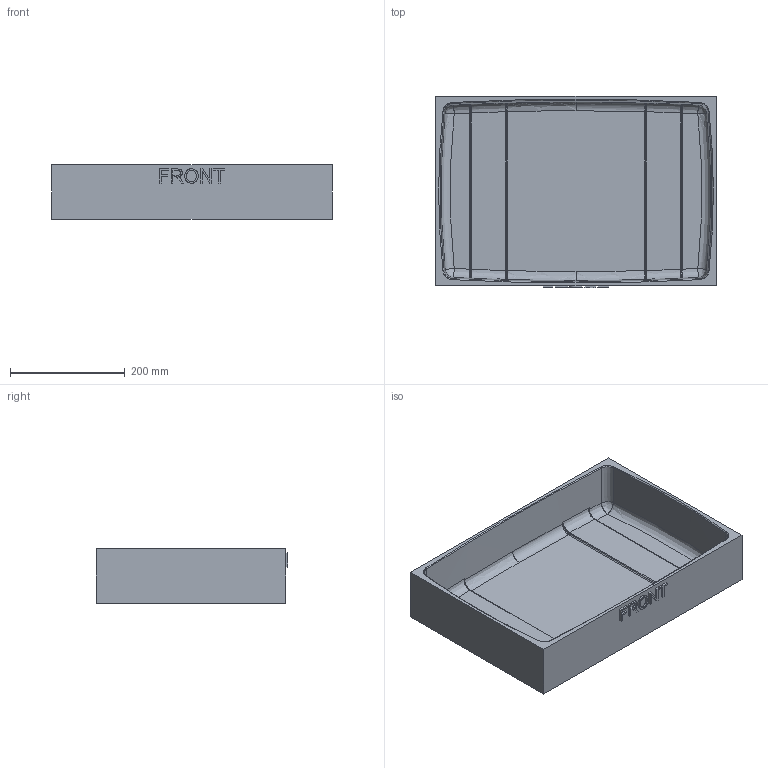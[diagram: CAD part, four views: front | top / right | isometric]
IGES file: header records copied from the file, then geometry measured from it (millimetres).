
Start section: Comment
Global section: file name: 2370-base_internal_tub.igs; native system:  By UGS Corp.; preprocessor: XPlus GENERIC/IGES 3.0; author: Author; organization: Title; date: 20100513.081300; units: millimetre
Bounding box: 488.95 x 333.38 x 95.25 mm (x, y, z)
Surface area: 600532.8 mm2 (no closed solid volume)
Topology: 0 solids, 0 shells, 155 faces, 914 edges, 902 vertices
Faces by surface type: bspline 155
